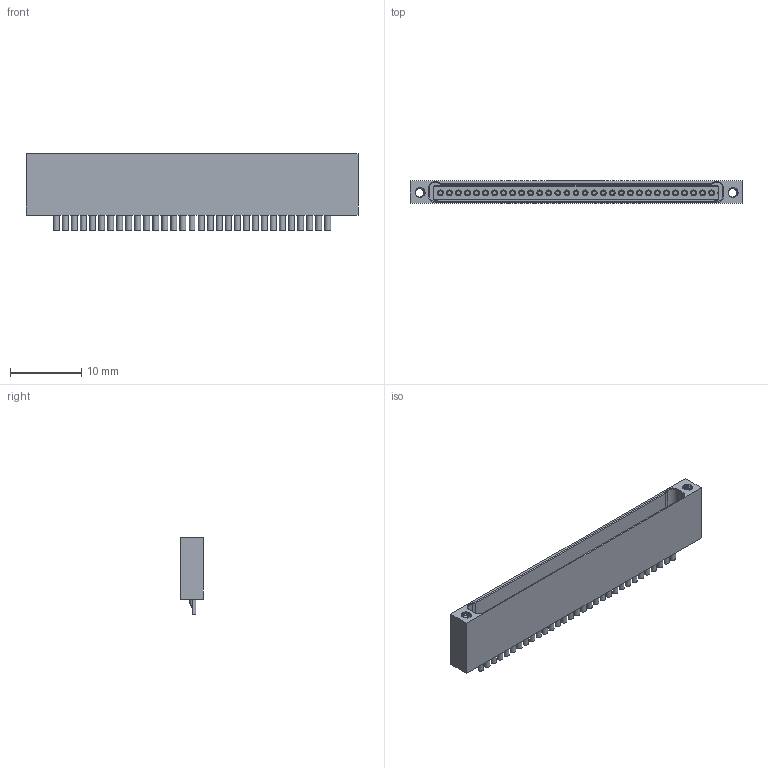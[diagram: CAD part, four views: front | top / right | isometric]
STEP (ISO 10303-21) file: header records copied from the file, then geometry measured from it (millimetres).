
FILE_DESCRIPTION (( 'STEP AP214' ), '1' );
FILE_NAME ('A92000-031 REV A.STEP', '2021-03-01T22:19:23', ( '' ), ( '' ), 'SwSTEP 2.0', 'SolidWorks 2019', '' );
FILE_SCHEMA (( 'AUTOMOTIVE_DESIGN' ));
Length unit declared in the file: inch
Products named in the file (1): A92000-031 REV A
Bounding box: 46.61 x 3.19 x 10.79 mm (x, y, z)
Volume: 736.8 mm3; surface area: 3025.2 mm2
Topology: 1 solids, 33 shells, 1023 faces, 2254 edges, 1436 vertices
Faces by surface type: cylinder 531, plane 366, torus 63, bspline 57, cone 6
Entity records: 48934 total; most frequent: CARTESIAN_POINT 12869, DIRECTION 4879, ORIENTED_EDGE 4508, EDGE_CURVE 2254, AXIS2_PLACEMENT_3D 1942, VERTEX_POINT 1436, EDGE_LOOP 1228, UNCERTAINTY_MEASURE_WITH_UNIT 1026
